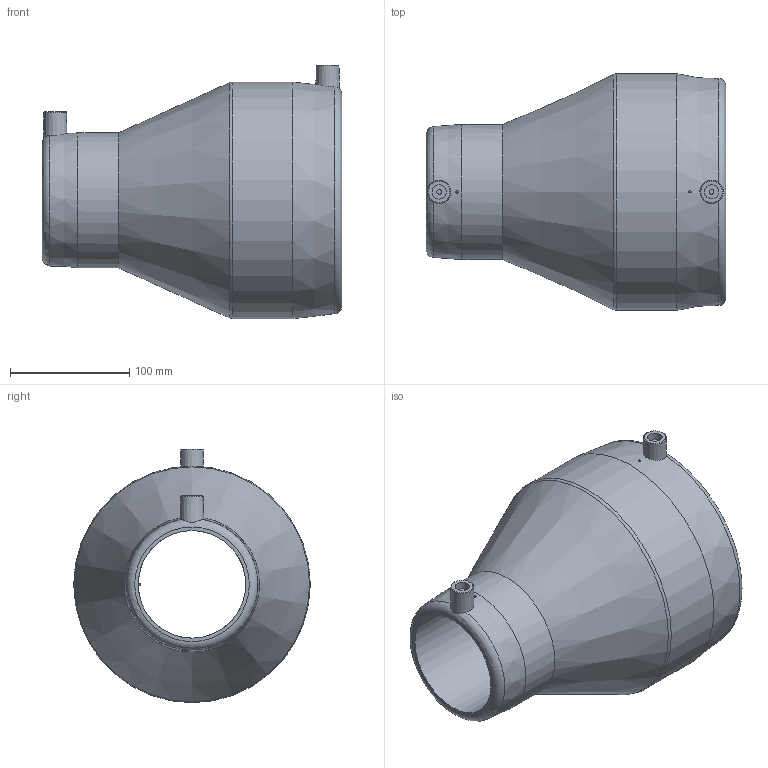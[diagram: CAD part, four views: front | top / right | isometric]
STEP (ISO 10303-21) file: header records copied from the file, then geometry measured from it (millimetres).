
FILE_DESCRIPTION(/* description */ ('Unknown'),/* implementation_level */ '2;1');
FILE_NAME(/* name */ 'REP160090C',/* time_stamp */ '2021-05-25T09:03:45+02:00',/* author */ ('Unknown'),/* organization */ ('Unknown'),/* preprocessor_version */ 'ST-DEVELOPER v16.7',/* originating_system */ 'Solid Edge',/* authorisation */ 'Unknown');
FILE_SCHEMA (('AUTOMOTIVE_DESIGN {1 0 10303 214 3 1 1}'));
Length unit declared in the file: millimetre
Products named in the file (1): REP160090C
Bounding box: 251 x 198 x 212 mm (x, y, z)
Volume: 1878296.7 mm3; surface area: 245665.6 mm2
Topology: 1 solids, 1 shells, 36 faces, 77 edges, 48 vertices
Faces by surface type: plane 15, cylinder 10, cone 6, torus 5
Full cylindrical faces by diameter (mm): 2 x1, 4 x2, 12 x2, 90 x1, 113 x1, 160 x1, 198 x1
Entity records: 853 total; most frequent: CARTESIAN_POINT 182, DIRECTION 142, ORIENTED_EDGE 92, AXIS2_PLACEMENT_3D 66, EDGE_LOOP 63, FACE_BOUND 63, EDGE_CURVE 46, VERTEX_POINT 37
